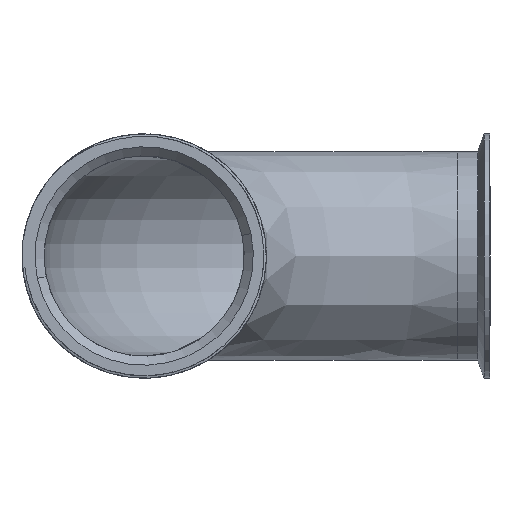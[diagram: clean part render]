
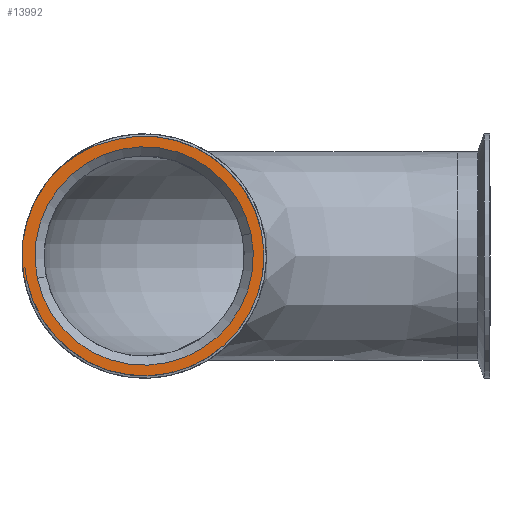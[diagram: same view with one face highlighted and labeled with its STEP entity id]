
A CAD part, left-side view. The second image highlights one B-rep face of the part: STEP entity #13992.
In plain terms, the highlighted planar face has unit normal (-1, 0, 0) as drawn and (1, 0, 0) by its records, which use the part's own axes.
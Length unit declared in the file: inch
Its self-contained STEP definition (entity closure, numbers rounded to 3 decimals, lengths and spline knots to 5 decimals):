
#52 = CARTESIAN_POINT ( 'NONE',  ( 1., 0.59179, -2.23943 ) ) ;
#150 = CARTESIAN_POINT ( 'NONE',  ( 1., 2.12878, -0.97672 ) ) ;
#201 = CARTESIAN_POINT ( 'NONE',  ( 1., 1.48782, -1.8068 ) ) ;
#343 = CARTESIAN_POINT ( 'NONE',  ( 1., 0., 0. ) ) ;
#800 = CARTESIAN_POINT ( 'NONE',  ( 1., -2.0914, 0. ) ) ;
#1029 = DIRECTION ( 'NONE',  ( 0., 1., 0. ) ) ;
#1101 = B_SPLINE_CURVE_WITH_KNOTS ( 'NONE', 3,
 ( #7066, #13737, #9270, #2457, #10373, #3608, #11509, #4778, #12639, #5956, #13790, #7116, #150, #8224, #1340, #9319, #2508, #10423, #3658, #11555, #4830, #12685, #6003, #13840, #7166, #201, #8269, #1397, #9369 ),
 .UNSPECIFIED., .F., .F.,
 ( 4, 2, 1, 2, 2, 2, 2, 2, 2, 2, 2, 2, 2, 2, 4 ),
 ( 0., 0.00384, 0.00768, 0.01152, 0.01537, 0.01921, 0.02305, 0.03073, 0.03457, 0.03842, 0.04226, 0.0461, 0.04994, 0.05378, 0.06147 ),
 .UNSPECIFIED. ) ;
#1163 = CARTESIAN_POINT ( 'NONE',  ( 1., 1.11157, -2.05743 ) ) ;
#1242 = CARTESIAN_POINT ( 'NONE',  ( 1., 0.44394, -2.26756 ) ) ;
#1311 = VERTEX_POINT ( 'NONE', #14248 ) ;
#1340 = CARTESIAN_POINT ( 'NONE',  ( 1., 2.01025, -1.19875 ) ) ;
#1397 = CARTESIAN_POINT ( 'NONE',  ( 1., 1.28622, -1.95739 ) ) ;
#1538 = DIRECTION ( 'NONE',  ( 0., 1., 0. ) ) ;
#1988 = CARTESIAN_POINT ( 'NONE',  ( 1., 0.04409, -2.29458 ) ) ;
#2286 = FACE_OUTER_BOUND ( 'NONE', #13219, .T. ) ;
#2289 = FACE_BOUND ( 'NONE', #4042, .T. ) ;
#2338 = AXIS2_PLACEMENT_3D ( 'NONE', #343, #8401, #1538 ) ;
#2408 = CARTESIAN_POINT ( 'NONE',  ( 1., 0.29465, -2.28601 ) ) ;
#2423 = VERTEX_POINT ( 'NONE', #1988 ) ;
#2445 = VERTEX_POINT ( 'NONE', #800 ) ;
#2457 = CARTESIAN_POINT ( 'NONE',  ( 1., 2.33186, -0.20134 ) ) ;
#2508 = CARTESIAN_POINT ( 'NONE',  ( 1., 1.92867, -1.32602 ) ) ;
#3264 = EDGE_CURVE ( 'NONE', #1311, #12027, #9885, .T. ) ;
#3292 = AXIS2_PLACEMENT_3D ( 'NONE', #14640, #7944, #1029 ) ;
#3301 = PLANE ( 'NONE',  #12014 ) ;
#3349 = DIRECTION ( 'NONE',  ( 1., 0., 0. ) ) ;
#3515 = CARTESIAN_POINT ( 'NONE',  ( 1., 2.30375, 0. ) ) ;
#3562 = CARTESIAN_POINT ( 'NONE',  ( 1., 0.14443, -2.29474 ) ) ;
#3608 = CARTESIAN_POINT ( 'NONE',  ( 1., 2.30598, -0.40074 ) ) ;
#3657 = VERTEX_POINT ( 'NONE', #7222 ) ;
#3658 = CARTESIAN_POINT ( 'NONE',  ( 1., 1.83917, -1.44761 ) ) ;
#3686 = AXIS2_PLACEMENT_3D ( 'NONE', #4970, #12822, #6153 ) ;
#3716 = CARTESIAN_POINT ( 'NONE',  ( 1., 0., 0. ) ) ;
#4042 = EDGE_LOOP ( 'NONE', ( #5658, #7100 ) ) ;
#4729 = CARTESIAN_POINT ( 'NONE',  ( 1., 0.04409, -2.29458 ) ) ;
#4778 = CARTESIAN_POINT ( 'NONE',  ( 1., 2.2753, -0.54875 ) ) ;
#4830 = CARTESIAN_POINT ( 'NONE',  ( 1., 1.7421, -1.56307 ) ) ;
#4884 = DIRECTION ( 'NONE',  ( 0., 1., 0. ) ) ;
#4956 = ORIENTED_EDGE ( 'NONE', *, *, #3264, .T. ) ;
#4970 = CARTESIAN_POINT ( 'NONE',  ( 1., 0., 0. ) ) ;
#5059 = AXIS2_PLACEMENT_3D ( 'NONE', #3716, #11608, #4884 ) ;
#5658 = ORIENTED_EDGE ( 'NONE', *, *, #8019, .T. ) ;
#5713 = LINE ( 'NONE', #3515, #5898 ) ;
#5856 = CARTESIAN_POINT ( 'NONE',  ( 1., 1.02042, -2.10004 ) ) ;
#5898 = VECTOR ( 'NONE', #11409, 39.37008 ) ;
#5956 = CARTESIAN_POINT ( 'NONE',  ( 1., 2.23524, -0.69414 ) ) ;
#6003 = CARTESIAN_POINT ( 'NONE',  ( 1., 1.63757, -1.67227 ) ) ;
#6153 = DIRECTION ( 'NONE',  ( 0., 1., 0. ) ) ;
#6734 = CARTESIAN_POINT ( 'NONE',  ( 1., 2.0914, 0. ) ) ;
#7023 = CARTESIAN_POINT ( 'NONE',  ( 1., 0.73774, -2.20337 ) ) ;
#7066 = CARTESIAN_POINT ( 'NONE',  ( 1., 2.34, 0. ) ) ;
#7100 = ORIENTED_EDGE ( 'NONE', *, *, #9362, .T. ) ;
#7116 = CARTESIAN_POINT ( 'NONE',  ( 1., 2.18579, -0.83692 ) ) ;
#7166 = CARTESIAN_POINT ( 'NONE',  ( 1., 1.52639, -1.77433 ) ) ;
#7172 = CIRCLE ( 'NONE', #2338, 2.295 ) ;
#7222 = CARTESIAN_POINT ( 'NONE',  ( 1., 1.19963, -2.0091 ) ) ;
#7278 = ORIENTED_EDGE ( 'NONE', *, *, #11045, .T. ) ;
#7515 = CIRCLE ( 'NONE', #3686, 2.0914 ) ;
#7578 = CARTESIAN_POINT ( 'NONE',  ( 1., -2.295, 0. ) ) ;
#7944 = DIRECTION ( 'NONE',  ( -1., 0., 0. ) ) ;
#7999 = CIRCLE ( 'NONE', #3292, 2.0914 ) ;
#8019 = EDGE_CURVE ( 'NONE', #12511, #2445, #7999, .T. ) ;
#8130 = CARTESIAN_POINT ( 'NONE',  ( 1., 0.54276, -2.24986 ) ) ;
#8224 = CARTESIAN_POINT ( 'NONE',  ( 1., 2.08491, -1.06719 ) ) ;
#8269 = CARTESIAN_POINT ( 'NONE',  ( 1., 1.36908, -1.90035 ) ) ;
#8401 = DIRECTION ( 'NONE',  ( 1., 0., 0. ) ) ;
#9224 = CARTESIAN_POINT ( 'NONE',  ( 1., 0.39425, -2.27479 ) ) ;
#9270 = CARTESIAN_POINT ( 'NONE',  ( 1., 2.33836, -0.10087 ) ) ;
#9319 = CARTESIAN_POINT ( 'NONE',  ( 1., 1.98398, -1.24175 ) ) ;
#9362 = EDGE_CURVE ( 'NONE', #2445, #12511, #7515, .T. ) ;
#9369 = CARTESIAN_POINT ( 'NONE',  ( 1., 1.19963, -2.0091 ) ) ;
#9388 = EDGE_CURVE ( 'NONE', #12027, #2423, #7172, .T. ) ;
#9885 = CIRCLE ( 'NONE', #5059, 2.295 ) ;
#10281 = CARTESIAN_POINT ( 'NONE',  ( 1., 1.19963, -2.0091 ) ) ;
#10327 = CARTESIAN_POINT ( 'NONE',  ( 1., 0.24468, -2.29 ) ) ;
#10359 = VERTEX_POINT ( 'NONE', #13161 ) ;
#10373 = CARTESIAN_POINT ( 'NONE',  ( 1., 2.32213, -0.30142 ) ) ;
#10423 = CARTESIAN_POINT ( 'NONE',  ( 1., 1.89966, -1.36726 ) ) ;
#10877 = ORIENTED_EDGE ( 'NONE', *, *, #9388, .T. ) ;
#11045 = EDGE_CURVE ( 'NONE', #10359, #1311, #5713, .T. ) ;
#11065 = EDGE_CURVE ( 'NONE', #3657, #2423, #13188, .T. ) ;
#11071 = ORIENTED_EDGE ( 'NONE', *, *, #11065, .F. ) ;
#11136 = EDGE_CURVE ( 'NONE', #10359, #3657, #1101, .T. ) ;
#11232 = DIRECTION ( 'NONE',  ( 0., 1., 0. ) ) ;
#11409 = DIRECTION ( 'NONE',  ( 0., -1., 0. ) ) ;
#11460 = CARTESIAN_POINT ( 'NONE',  ( 1., 0.0942, -2.29547 ) ) ;
#11509 = CARTESIAN_POINT ( 'NONE',  ( 1., 2.28658, -0.49966 ) ) ;
#11555 = CARTESIAN_POINT ( 'NONE',  ( 1., 1.80766, -1.48677 ) ) ;
#11608 = DIRECTION ( 'NONE',  ( 1., 0., 0. ) ) ;
#12014 = AXIS2_PLACEMENT_3D ( 'NONE', #14621, #3349, #11232 ) ;
#12027 = VERTEX_POINT ( 'NONE', #7578 ) ;
#12511 = VERTEX_POINT ( 'NONE', #6734 ) ;
#12639 = CARTESIAN_POINT ( 'NONE',  ( 1., 2.24963, -0.64597 ) ) ;
#12685 = CARTESIAN_POINT ( 'NONE',  ( 1., 1.70801, -1.60026 ) ) ;
#12713 = ORIENTED_EDGE ( 'NONE', *, *, #11136, .F. ) ;
#12822 = DIRECTION ( 'NONE',  ( -1., 0., 0. ) ) ;
#13161 = CARTESIAN_POINT ( 'NONE',  ( 1., 2.34, 0. ) ) ;
#13188 = B_SPLINE_CURVE_WITH_KNOTS ( 'NONE', 3,
 ( #10281, #1163, #5856, #13689, #7023, #52, #8130, #1242, #9224, #2408, #10327, #3562, #11460, #4729 ),
 .UNSPECIFIED., .F., .F.,
 ( 4, 2, 2, 2, 2, 2, 4 ),
 ( 0., 0.00765, 0.0153, 0.01913, 0.02295, 0.02678, 0.0306 ),
 .UNSPECIFIED. ) ;
#13219 = EDGE_LOOP ( 'NONE', ( #7278, #4956, #10877, #11071, #12713 ) ) ;
#13689 = CARTESIAN_POINT ( 'NONE',  ( 1., 0.83369, -2.17293 ) ) ;
#13737 = CARTESIAN_POINT ( 'NONE',  ( 1., 2.34, -0.05042 ) ) ;
#13790 = CARTESIAN_POINT ( 'NONE',  ( 1., 2.20333, -0.78958 ) ) ;
#13840 = CARTESIAN_POINT ( 'NONE',  ( 1., 1.60124, -1.70708 ) ) ;
#13992 = ADVANCED_FACE ( 'NONE', ( #2289, #2286 ), #3301, .T. ) ;
#14248 = CARTESIAN_POINT ( 'NONE',  ( 1., 2.295, 0. ) ) ;
#14621 = CARTESIAN_POINT ( 'NONE',  ( 1., 2.34, 0. ) ) ;
#14640 = CARTESIAN_POINT ( 'NONE',  ( 1., 0., 0. ) ) ;
